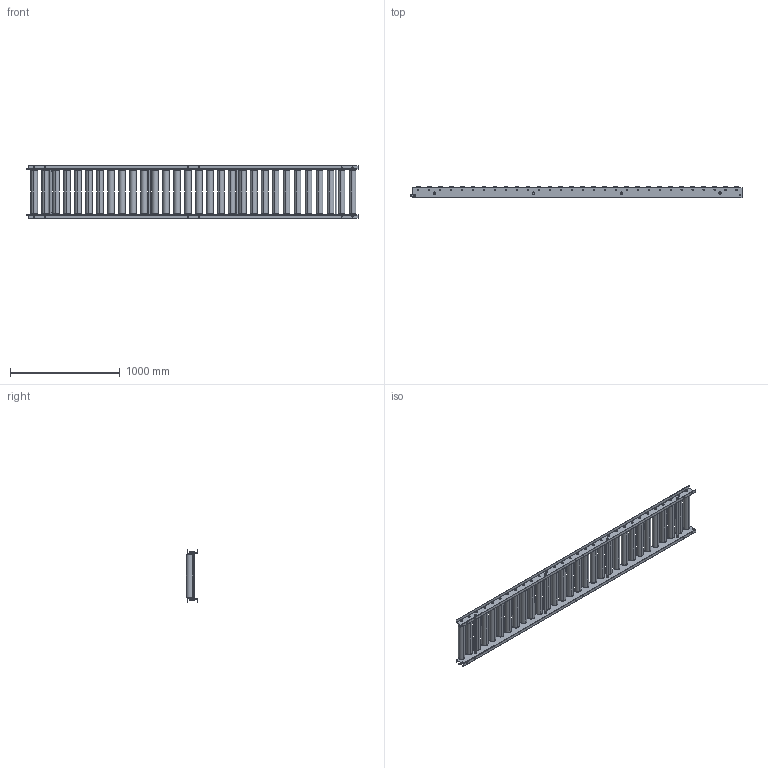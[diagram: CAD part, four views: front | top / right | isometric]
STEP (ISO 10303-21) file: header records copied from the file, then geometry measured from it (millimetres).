
FILE_DESCRIPTION (( 'STEP AP203' ), '1' );
FILE_NAME ('ARS-6020.step', '2024-02-20T08:14:52', ( '' ), ( '' ), 'SwSTEP 2.0', 'SolidWorks 2023', '' );
FILE_SCHEMA (( 'CONFIG_CONTROL_DESIGN' ));
Length unit declared in the file: millimetre
Products named in the file (1): ARS-6020
Bounding box: 3025 x 101.66 x 475 mm (x, y, z)
Volume: 35591799.2 mm3; surface area: 5734445.3 mm2
Topology: 84 solids, 84 shells, 1280 faces, 2932 edges, 1888 vertices
Faces by surface type: cylinder 622, plane 490, torus 120, cone 48
Entity records: 37571 total; most frequent: DIRECTION 7018, CARTESIAN_POINT 6773, ORIENTED_EDGE 5864, AXIS2_PLACEMENT_3D 2933, EDGE_CURVE 2932, VERTEX_POINT 1888, EDGE_LOOP 1652, CIRCLE 1652
